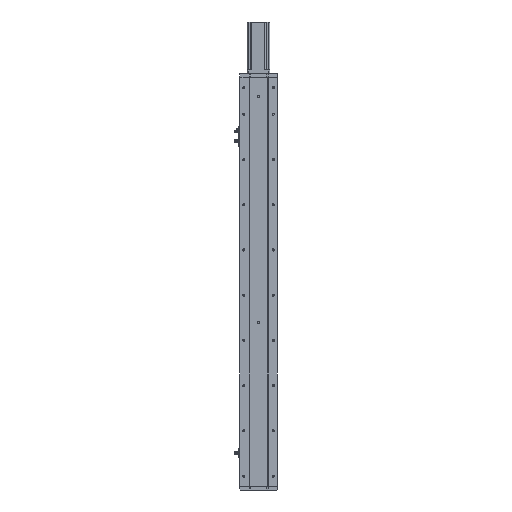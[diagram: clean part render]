
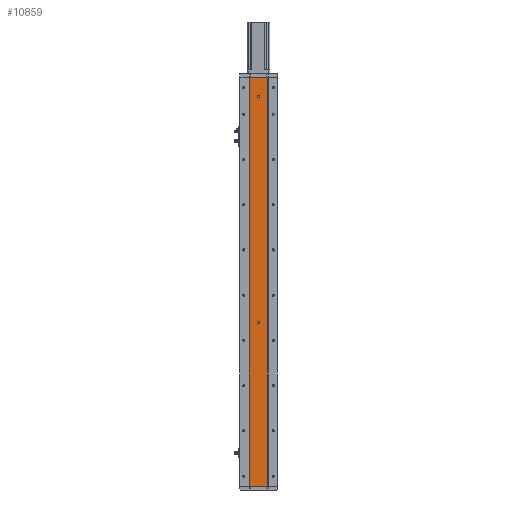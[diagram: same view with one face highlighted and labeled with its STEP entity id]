
A CAD part, left-side view. The second image highlights one B-rep face of the part: STEP entity #10859.
In plain terms, the highlighted planar face has unit normal (-1, 0, 0).
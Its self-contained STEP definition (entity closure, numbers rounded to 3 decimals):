
#33 = ORIENTED_EDGE ( 'NONE', *, *, #35340, .T. ) ;
#977 = DIRECTION ( 'NONE',  ( 0., 0., -1. ) ) ;
#998 = DIRECTION ( 'NONE',  ( 0., 0., 1. ) ) ;
#1074 = DIRECTION ( 'NONE',  ( -1., 0., 0. ) ) ;
#2493 = LINE ( 'NONE', #32429, #36434 ) ;
#3052 = EDGE_CURVE ( 'NONE', #42316, #15661, #9856, .T. ) ;
#3230 = FACE_BOUND ( 'NONE', #36751, .T. ) ;
#3350 = CIRCLE ( 'NONE', #7487, 3. ) ;
#4061 = ORIENTED_EDGE ( 'NONE', *, *, #37159, .F. ) ;
#4354 = DIRECTION ( 'NONE',  ( -1., 0., 0. ) ) ;
#4720 = EDGE_CURVE ( 'NONE', #7359, #31981, #32356, .T. ) ;
#5032 = CARTESIAN_POINT ( 'NONE',  ( -18.926, -24.785, 0. ) ) ;
#5554 = ORIENTED_EDGE ( 'NONE', *, *, #40313, .F. ) ;
#5563 = LINE ( 'NONE', #42416, #31606 ) ;
#6332 = CARTESIAN_POINT ( 'NONE',  ( -18.926, 0., 1032. ) ) ;
#6463 = VERTEX_POINT ( 'NONE', #5032 ) ;
#7359 = VERTEX_POINT ( 'NONE', #21295 ) ;
#7487 = AXIS2_PLACEMENT_3D ( 'NONE', #41617, #21323, #998 ) ;
#7510 = CIRCLE ( 'NONE', #11306, 3. ) ;
#9856 = CIRCLE ( 'NONE', #23345, 3. ) ;
#10245 = CARTESIAN_POINT ( 'NONE',  ( -18.926, 0., 1035. ) ) ;
#10571 = VECTOR ( 'NONE', #13515, 1000. ) ;
#10859 = ADVANCED_FACE ( 'NONE', ( #39270, #3230, #12250 ), #24601, .F. ) ;
#11306 = AXIS2_PLACEMENT_3D ( 'NONE', #21393, #1074, #24864 ) ;
#11765 = AXIS2_PLACEMENT_3D ( 'NONE', #24705, #4354, #28129 ) ;
#12122 = DIRECTION ( 'NONE',  ( 0., 0., -1. ) ) ;
#12250 = FACE_OUTER_BOUND ( 'NONE', #30131, .T. ) ;
#12634 = VERTEX_POINT ( 'NONE', #28459 ) ;
#13306 = VERTEX_POINT ( 'NONE', #35770 ) ;
#13515 = DIRECTION ( 'NONE',  ( 0., -1., 0. ) ) ;
#13674 = DIRECTION ( 'NONE',  ( 0., 0., 1. ) ) ;
#14877 = ORIENTED_EDGE ( 'NONE', *, *, #24192, .F. ) ;
#15661 = VERTEX_POINT ( 'NONE', #29276 ) ;
#18327 = VERTEX_POINT ( 'NONE', #41943 ) ;
#18425 = LINE ( 'NONE', #24914, #26447 ) ;
#19926 = ORIENTED_EDGE ( 'NONE', *, *, #32452, .T. ) ;
#21295 = CARTESIAN_POINT ( 'NONE',  ( -18.926, 0., 432. ) ) ;
#21302 = DIRECTION ( 'NONE',  ( 1., 0., 0. ) ) ;
#21323 = DIRECTION ( 'NONE',  ( -1., 0., 0. ) ) ;
#21393 = CARTESIAN_POINT ( 'NONE',  ( -18.926, 0., 435. ) ) ;
#22134 = DIRECTION ( 'NONE',  ( 0., -1., 0. ) ) ;
#22554 = EDGE_LOOP ( 'NONE', ( #40994, #40065 ) ) ;
#23345 = AXIS2_PLACEMENT_3D ( 'NONE', #10245, #33996, #13674 ) ;
#24192 = EDGE_CURVE ( 'NONE', #13306, #18327, #37625, .T. ) ;
#24601 = PLANE ( 'NONE',  #38897 ) ;
#24705 = CARTESIAN_POINT ( 'NONE',  ( -18.926, 0., 435. ) ) ;
#24864 = DIRECTION ( 'NONE',  ( 0., 0., 1. ) ) ;
#24914 = CARTESIAN_POINT ( 'NONE',  ( -18.926, 24.785, 1085. ) ) ;
#26447 = VECTOR ( 'NONE', #31730, 1000. ) ;
#28129 = DIRECTION ( 'NONE',  ( 0., 0., 1. ) ) ;
#28459 = CARTESIAN_POINT ( 'NONE',  ( -18.926, 24.785, 0. ) ) ;
#29276 = CARTESIAN_POINT ( 'NONE',  ( -18.926, 0., 1038. ) ) ;
#30131 = EDGE_LOOP ( 'NONE', ( #19926, #5554, #14877, #33 ) ) ;
#31606 = VECTOR ( 'NONE', #22134, 1000. ) ;
#31730 = DIRECTION ( 'NONE',  ( 0., 0., -1. ) ) ;
#31981 = VERTEX_POINT ( 'NONE', #42119 ) ;
#32356 = CIRCLE ( 'NONE', #11765, 3. ) ;
#32429 = CARTESIAN_POINT ( 'NONE',  ( -18.926, -24.785, 1085. ) ) ;
#32452 = EDGE_CURVE ( 'NONE', #12634, #6463, #5563, .T. ) ;
#33996 = DIRECTION ( 'NONE',  ( -1., 0., 0. ) ) ;
#33999 = EDGE_CURVE ( 'NONE', #31981, #7359, #7510, .T. ) ;
#35340 = EDGE_CURVE ( 'NONE', #13306, #12634, #18425, .T. ) ;
#35770 = CARTESIAN_POINT ( 'NONE',  ( -18.926, 24.785, 1085. ) ) ;
#36434 = VECTOR ( 'NONE', #12122, 1000. ) ;
#36751 = EDGE_LOOP ( 'NONE', ( #4061, #37536 ) ) ;
#37159 = EDGE_CURVE ( 'NONE', #15661, #42316, #3350, .T. ) ;
#37234 = CARTESIAN_POINT ( 'NONE',  ( -18.926, 24.785, 1085. ) ) ;
#37536 = ORIENTED_EDGE ( 'NONE', *, *, #3052, .F. ) ;
#37625 = LINE ( 'NONE', #37234, #10571 ) ;
#38897 = AXIS2_PLACEMENT_3D ( 'NONE', #41595, #21302, #977 ) ;
#39270 = FACE_BOUND ( 'NONE', #22554, .T. ) ;
#40065 = ORIENTED_EDGE ( 'NONE', *, *, #4720, .F. ) ;
#40313 = EDGE_CURVE ( 'NONE', #18327, #6463, #2493, .T. ) ;
#40994 = ORIENTED_EDGE ( 'NONE', *, *, #33999, .F. ) ;
#41595 = CARTESIAN_POINT ( 'NONE',  ( -18.926, 24.785, 1085. ) ) ;
#41617 = CARTESIAN_POINT ( 'NONE',  ( -18.926, 0., 1035. ) ) ;
#41943 = CARTESIAN_POINT ( 'NONE',  ( -18.926, -24.785, 1085. ) ) ;
#42119 = CARTESIAN_POINT ( 'NONE',  ( -18.926, 0., 438. ) ) ;
#42316 = VERTEX_POINT ( 'NONE', #6332 ) ;
#42416 = CARTESIAN_POINT ( 'NONE',  ( -18.926, 24.785, 0. ) ) ;
